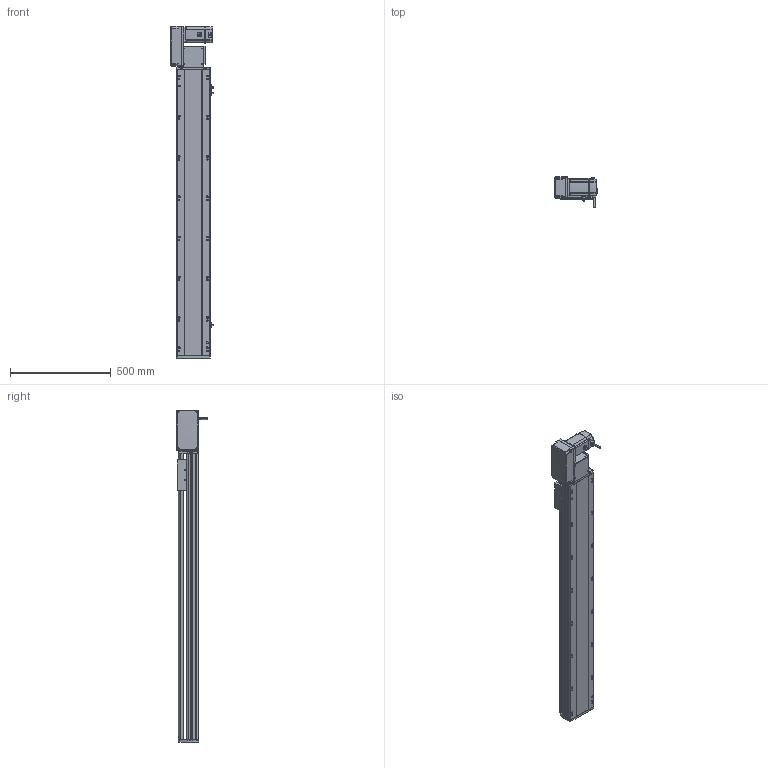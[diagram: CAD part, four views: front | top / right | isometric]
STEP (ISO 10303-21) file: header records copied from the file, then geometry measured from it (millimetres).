
FILE_DESCRIPTION (( 'STEP AP214' ), '1' );
FILE_NAME ('RTB17S-XX-1150-L-M75-C4.STEP', '2025-12-12T00:14:00', ( '' ), ( '' ), 'SwSTEP 2.0', 'SolidWorks 2018', '' );
FILE_SCHEMA (( 'AUTOMOTIVE_DESIGN' ));
Length unit declared in the file: millimetre
Products named in the file (15): EE672^RTB17S-XX-XX-L-M75-C4; RTB17-R-011菁釱^RTB17S-XX-XX-L-M75-C4; RTB22S-GY-008-M75--萇儂啣^RTB17S-L-々湍釱蚾饜-750W_RTB17S-XX-XX-L-M75-C4; RTB17S-賑釱^RTB17S-XX-XX-L-M75-C4; RTB17S-L-々湍釱蚾饜-750W^RTB17S-XX-XX-L-M75-C4; RTB17S-L-001-耜醱啣^RTB17S-XX-XX-L-M75-C4; RTB22S-GY-018P^RTB17S-L-々湍釱蚾饜-750W_RTB17S-XX-XX-L-M75-C4; RTB17S-L-007奻裔^RTB17S-XX-XX-L-M75-C4; RTB17S-L-004-賑釱^RTB17S-賑釱_RTB17S-XX-XX-L-M75-C4; RTB17S-XX-1150-L-M75-C4; 750W萇儂^RTB17S-XX-XX-L-M75-C4; RMP17S-L-014-T20-P75--々湍釱^RTB17S-L-々湍釱蚾饜-750W_RTB17S-XX-XX-L-M75-C4; RTB22S-GY-005P^RTB17S-L-々湍釱蚾饜-750W_RTB17S-XX-XX-L-M75-C4; RTB22S-GY-017P^RTB17S-L-々湍釱蚾饜-750W_RTB17S-XX-XX-L-M75-C4; RTH13-BL-012覜茼え俋离^RTB17S-賑釱_RTB17S-XX-XX-L-M75-C4
Assembly tree (17 placements, depth 3):
  RTB17S-XX-1150-L-M75-C4
    RTB17-R-011菁釱^RTB17S-XX-XX-L-M75-C4
    EE672^RTB17S-XX-XX-L-M75-C4  x3
    RTB17S-L-001-耜醱啣^RTB17S-XX-XX-L-M75-C4
    RTB17S-賑釱^RTB17S-XX-XX-L-M75-C4
      RTB17S-L-004-賑釱^RTB17S-賑釱_RTB17S-XX-XX-L-M75-C4
      RTH13-BL-012覜茼え俋离^RTB17S-賑釱_RTB17S-XX-XX-L-M75-C4
    RTB17S-L-007奻裔^RTB17S-XX-XX-L-M75-C4
    750W萇儂^RTB17S-XX-XX-L-M75-C4
    RTB17S-L-々湍釱蚾饜-750W^RTB17S-XX-XX-L-M75-C4
      RMP17S-L-014-T20-P75--々湍釱^RTB17S-L-々湍釱蚾饜-750W_RTB17S-XX-XX-L-M75-C4
      RTB22S-GY-005P^RTB17S-L-々湍釱蚾饜-750W_RTB17S-XX-XX-L-M75-C4
      RTB22S-GY-017P^RTB17S-L-々湍釱蚾饜-750W_RTB17S-XX-XX-L-M75-C4  x2
      RTB22S-GY-008-M75--萇儂啣^RTB17S-L-々湍釱蚾饜-750W_RTB17S-XX-XX-L-M75-C4
      RTB22S-GY-018P^RTB17S-L-々湍釱蚾饜-750W_RTB17S-XX-XX-L-M75-C4
Bounding box: 210.4 x 152.7 x 1649 mm (x, y, z)
Volume: 13138812.9 mm3; surface area: 2255168.4 mm2
Topology: 17 solids, 17 shells, 2105 faces, 5836 edges, 3770 vertices
Faces by surface type: plane 972, cylinder 717, bspline 294, cone 110, sphere 8, torus 4
Entity records: 58870 total; most frequent: CARTESIAN_POINT 17300, ORIENTED_EDGE 8516, DIRECTION 7952, EDGE_CURVE 4258, AXIS2_PLACEMENT_3D 2790, VERTEX_POINT 2774, VECTOR 2372, LINE 2372
